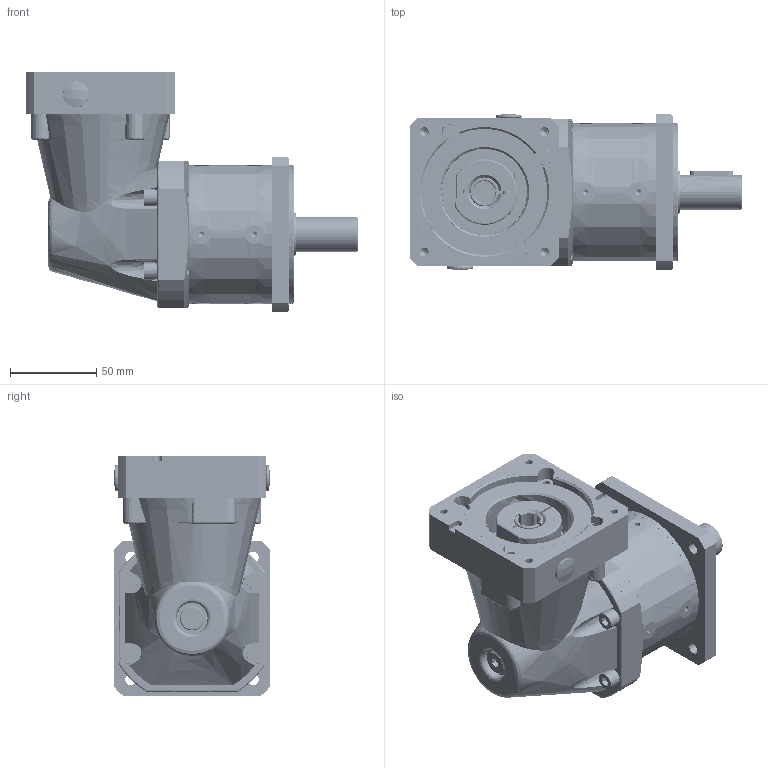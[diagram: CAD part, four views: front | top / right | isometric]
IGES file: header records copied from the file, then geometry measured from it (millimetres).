
Start section: SolidWorks IGES file using analytic representation for surfaces
Global section: file name: C:\TeknicPDM\Remarketed and Private Label Products\Gearboxes\Gearbox Customer Files\GSFR (Newstart WPF Series)\GSFR-080-0_ _-N034_-XX Single Stage.IGS; native system: SolidWorks 2020; preprocessor: SolidWorks 2020; author: zeb_koch; date: 250825.161440; units: millimetre
Bounding box: 192 x 90.39 x 139 mm (x, y, z)
Surface area: 239448.8 mm2 (no closed solid volume)
Topology: 0 solids, 0 shells, 1700 faces, 32996 edges, 32876 vertices
Faces by surface type: bspline 922, revolution 778
